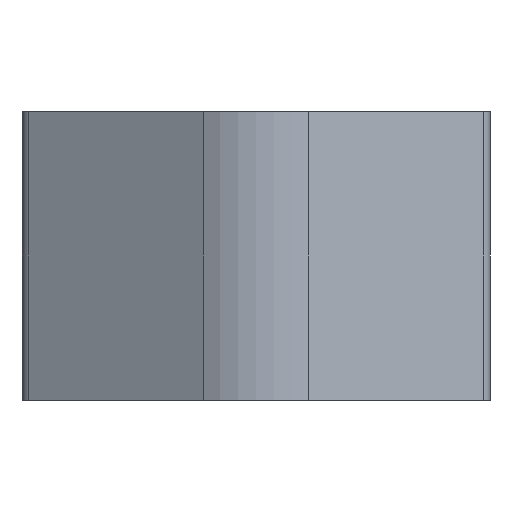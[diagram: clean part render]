
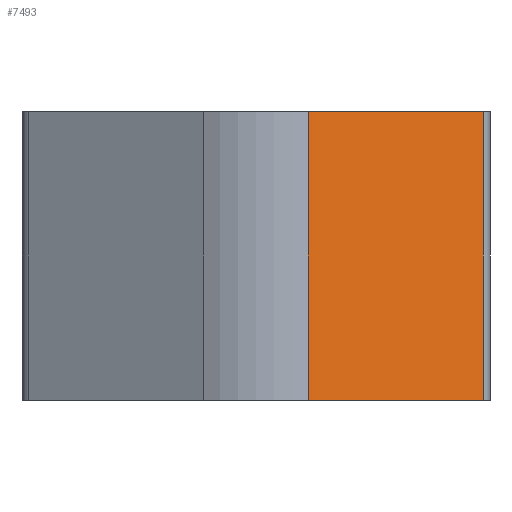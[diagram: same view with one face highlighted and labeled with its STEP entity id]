
A CAD part, front view. The second image highlights one B-rep face of the part: STEP entity #7493.
In plain terms, the highlighted planar face has unit normal (0.5, -0.866, 0).
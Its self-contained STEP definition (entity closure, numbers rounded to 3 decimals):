
#40 = AXIS2_PLACEMENT_3D ( 'NONE', #1734, #1033, #6880 ) ;
#89 = EDGE_CURVE ( 'NONE', #2932, #9214, #5903, .T. ) ;
#210 = EDGE_LOOP ( 'NONE', ( #3386, #5109, #3649, #1423 ) ) ;
#215 = CARTESIAN_POINT ( 'NONE',  ( 3.94, -38.044, 10.9 ) ) ;
#1033 = DIRECTION ( 'NONE',  ( -0.5, 0.866, 0. ) ) ;
#1423 = ORIENTED_EDGE ( 'NONE', *, *, #1437, .T. ) ;
#1437 = EDGE_CURVE ( 'NONE', #6686, #2932, #4757, .T. ) ;
#1734 = CARTESIAN_POINT ( 'NONE',  ( 3.94, -38.044, 10.9 ) ) ;
#1826 = LINE ( 'NONE', #215, #7122 ) ;
#2031 = CARTESIAN_POINT ( 'NONE',  ( 3.94, -38.044, 10.9 ) ) ;
#2077 = CARTESIAN_POINT ( 'NONE',  ( 17.2, -30.389, 10.9 ) ) ;
#2932 = VERTEX_POINT ( 'NONE', #7767 ) ;
#3386 = ORIENTED_EDGE ( 'NONE', *, *, #89, .T. ) ;
#3428 = CARTESIAN_POINT ( 'NONE',  ( 17.2, -30.389, 10.9 ) ) ;
#3485 = EDGE_CURVE ( 'NONE', #9214, #4737, #9032, .T. ) ;
#3504 = CARTESIAN_POINT ( 'NONE',  ( 3.94, -38.044, 10.9 ) ) ;
#3649 = ORIENTED_EDGE ( 'NONE', *, *, #7385, .F. ) ;
#3736 = FACE_OUTER_BOUND ( 'NONE', #210, .T. ) ;
#4737 = VERTEX_POINT ( 'NONE', #3428 ) ;
#4757 = LINE ( 'NONE', #2031, #7136 ) ;
#5109 = ORIENTED_EDGE ( 'NONE', *, *, #3485, .T. ) ;
#5671 = DIRECTION ( 'NONE',  ( 0., 0., -1. ) ) ;
#5695 = CARTESIAN_POINT ( 'NONE',  ( 3.94, -38.044, -10.9 ) ) ;
#5903 = LINE ( 'NONE', #5695, #9244 ) ;
#6137 = PLANE ( 'NONE',  #40 ) ;
#6442 = CARTESIAN_POINT ( 'NONE',  ( 17.2, -30.389, -10.9 ) ) ;
#6686 = VERTEX_POINT ( 'NONE', #3504 ) ;
#6700 = DIRECTION ( 'NONE',  ( 0.866, 0.5, 0. ) ) ;
#6880 = DIRECTION ( 'NONE',  ( -0.866, -0.5, 0. ) ) ;
#7122 = VECTOR ( 'NONE', #6700, 1000. ) ;
#7128 = VECTOR ( 'NONE', #8472, 1000. ) ;
#7136 = VECTOR ( 'NONE', #5671, 1000. ) ;
#7385 = EDGE_CURVE ( 'NONE', #6686, #4737, #1826, .T. ) ;
#7493 = ADVANCED_FACE ( 'NONE', ( #3736 ), #6137, .F. ) ;
#7767 = CARTESIAN_POINT ( 'NONE',  ( 3.94, -38.044, -10.9 ) ) ;
#7793 = DIRECTION ( 'NONE',  ( 0.866, 0.5, 0. ) ) ;
#8472 = DIRECTION ( 'NONE',  ( 0., 0., 1. ) ) ;
#9032 = LINE ( 'NONE', #2077, #7128 ) ;
#9214 = VERTEX_POINT ( 'NONE', #6442 ) ;
#9244 = VECTOR ( 'NONE', #7793, 1000. ) ;
